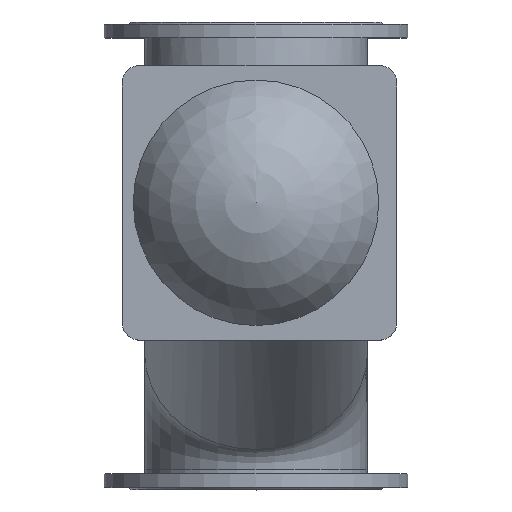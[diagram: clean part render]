
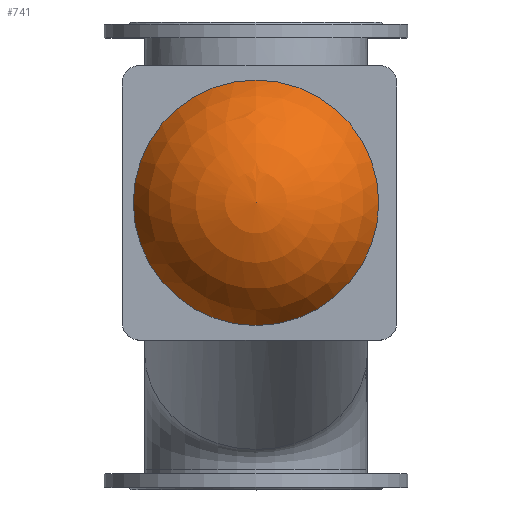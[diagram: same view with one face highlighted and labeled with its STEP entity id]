
A CAD part, top view. The second image highlights one B-rep face of the part: STEP entity #741.
In plain terms, the highlighted spherical face has radius 227.5 mm.
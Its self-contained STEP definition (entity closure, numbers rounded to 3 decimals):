
#741=ADVANCED_FACE('',(#1732),#1734,.T.);
#1732=FACE_OUTER_BOUND('',#1733,.T.);
#1733=EDGE_LOOP('',(#2131));
#1734=SPHERICAL_SURFACE('',#1735,227.5);
#1735=AXIS2_PLACEMENT_3D('',#1736,#1737,#1738);
#1736=CARTESIAN_POINT('',(0.,90.,497.5));
#1737=DIRECTION('',(0.,0.,-1.));
#1738=DIRECTION('',(0.,1.,0.));
#2131=ORIENTED_EDGE('',*,*,#2331,.T.);
#2331=EDGE_CURVE('',#2642,#2642,#2643,.F.);
#2642=VERTEX_POINT('',#3622);
#2643=CIRCLE('',#3623,210.);
#3622=CARTESIAN_POINT('',(0.,300.,585.));
#3623=AXIS2_PLACEMENT_3D('',#3624,#3625,#3626);
#3624=CARTESIAN_POINT('',(0.,90.,585.));
#3625=DIRECTION('',(0.,0.,-1.));
#3626=DIRECTION('',(0.,1.,0.));
